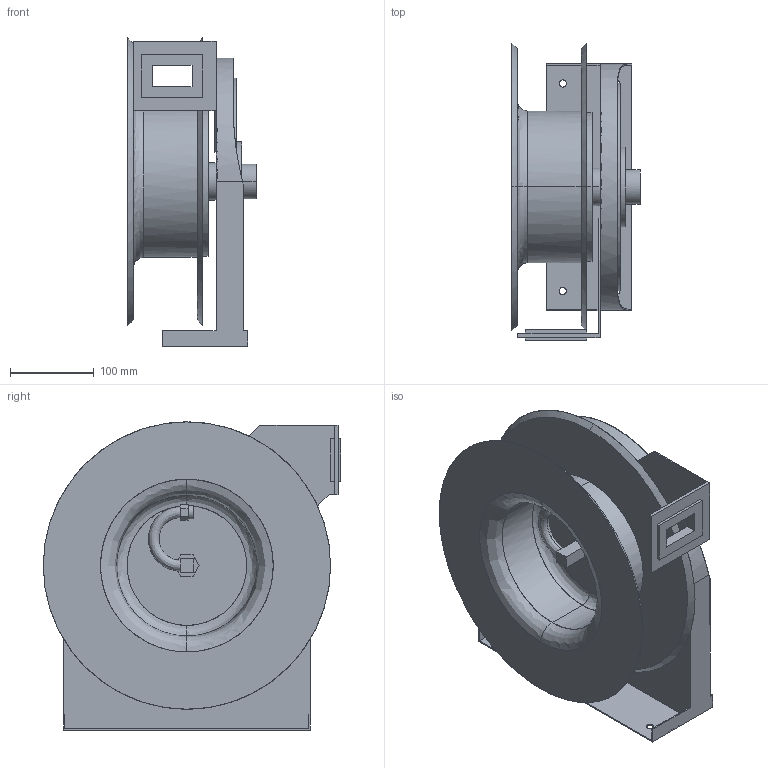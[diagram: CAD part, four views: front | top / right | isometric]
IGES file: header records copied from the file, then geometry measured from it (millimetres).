
Start section: Comment
Global section: file name: 5000 OXP SW.igs; native system:  By UGS Corp.; preprocessor: XPlus GENERIC/IGES 3.0; author: Author; organization: Title; date: 20120809.083925; units: millimetre
Bounding box: 153.11 x 355.07 x 367.84 mm (x, y, z)
Surface area: 765091.9 mm2 (no closed solid volume)
Topology: 0 solids, 0 shells, 137 faces, 656 edges, 656 vertices
Faces by surface type: bspline 137
